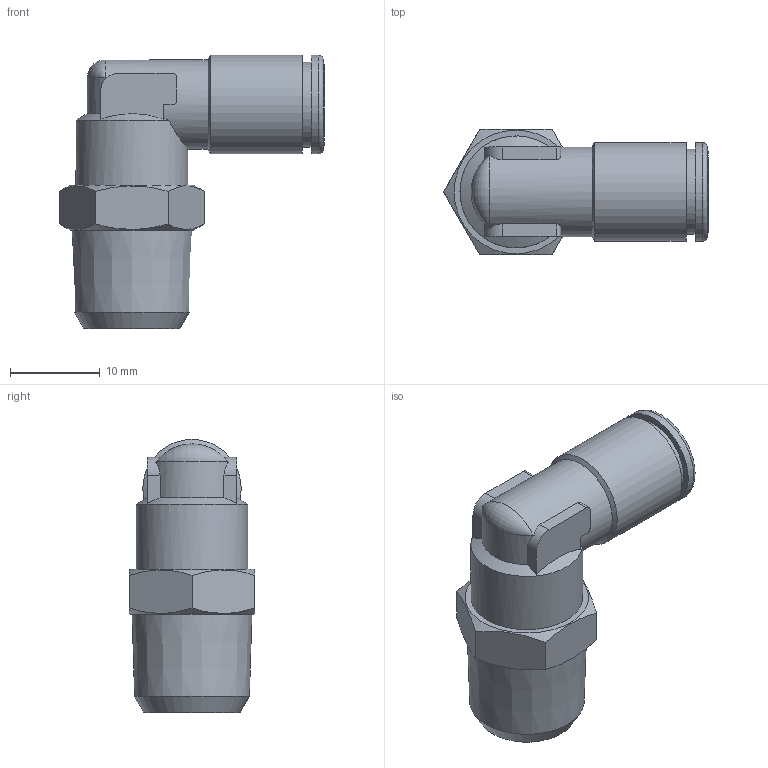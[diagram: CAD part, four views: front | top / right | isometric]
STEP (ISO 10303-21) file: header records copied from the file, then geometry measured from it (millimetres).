
FILE_DESCRIPTION(/* description */ (''),/* implementation_level */ '2;1');
FILE_NAME(/* name */ '202254-ES_STX022K_6_R14_16.06.16',/* time_stamp */ '2016-06-16T11:22:35+02:00',/* author */ (''),/* organization */ (''),/* preprocessor_version */ 'ST-DEVELOPER v14',/* originating_system */ 'HiCAD 2013 1802.4 Build 509',/* authorisation */ '');
FILE_SCHEMA (('AUTOMOTIVE_DESIGN { 1 0 10303 214 1 1 1 1 }'));
Length unit declared in the file: millimetre
Products named in the file (4): Root; DR6-1_NEU; 214626-N2; R202203-ES
Assembly tree (3 placements, depth 2):
  Root
    DR6-1_NEU
    214626-N2
    R202203-ES
Bounding box: 29.58 x 14 x 30.5 mm (x, y, z)
Volume: 3579 mm3; surface area: 3945.5 mm2
Topology: 3 solids, 3 shells, 74 faces, 170 edges, 107 vertices
Faces by surface type: plane 28, cylinder 24, cone 20, torus 2
Full cylindrical faces by diameter (mm): 5.5 x1, 6 x1, 6.1 x1, 6.2 x1, 7 x1, 8.3 x1, 9 x3, 9.5 x1, 9.6 x1, 10 x1, 10.1 x2, 11 x2, 12.5 x1
Entity records: 4469 total; most frequent: CARTESIAN_POINT 1608, DIRECTION 350, PRESENTATION_STYLE_ASSIGNMENT 255, OVER_RIDING_STYLED_ITEM 252, COLOUR_RGB 246, DRAUGHTING_PRE_DEFINED_CURVE_FONT 244, CURVE_STYLE 244, ORIENTED_EDGE 244
